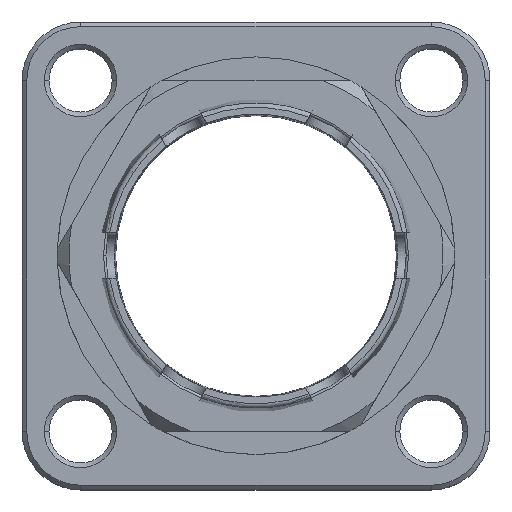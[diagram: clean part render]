
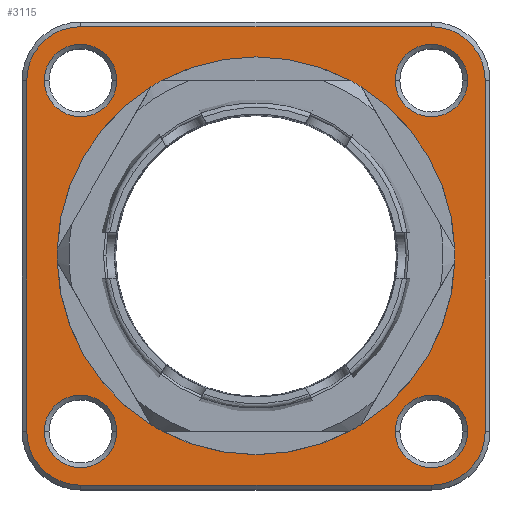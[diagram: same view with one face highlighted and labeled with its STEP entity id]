
A CAD part, top view. The second image highlights one B-rep face of the part: STEP entity #3115.
In plain terms, the highlighted planar face has unit normal (0, 0, 1).
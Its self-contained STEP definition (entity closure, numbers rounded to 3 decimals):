
#231=CARTESIAN_POINT('',(-7.5,7.5,2.));
#232=DIRECTION('',(0.,0.,-1.));
#233=DIRECTION('',(-1.,0.,0.));
#234=AXIS2_PLACEMENT_3D('',#231,#232,#233);
#239=CARTESIAN_POINT('',(-7.5,7.5,2.));
#240=DIRECTION('',(0.,0.,-1.));
#241=DIRECTION('',(1.,0.,0.));
#242=AXIS2_PLACEMENT_3D('',#239,#240,#241);
#247=CARTESIAN_POINT('',(7.5,7.5,2.));
#248=DIRECTION('',(0.,0.,-1.));
#249=DIRECTION('',(-1.,0.,0.));
#250=AXIS2_PLACEMENT_3D('',#247,#248,#249);
#255=CARTESIAN_POINT('',(7.5,7.5,2.));
#256=DIRECTION('',(0.,0.,-1.));
#257=DIRECTION('',(1.,0.,0.));
#258=AXIS2_PLACEMENT_3D('',#255,#256,#257);
#263=CARTESIAN_POINT('',(-7.5,-7.5,2.));
#264=DIRECTION('',(0.,0.,-1.));
#265=DIRECTION('',(1.,0.,0.));
#266=AXIS2_PLACEMENT_3D('',#263,#264,#265);
#271=CARTESIAN_POINT('',(-7.5,-7.5,2.));
#272=DIRECTION('',(0.,0.,-1.));
#273=DIRECTION('',(-1.,0.,0.));
#274=AXIS2_PLACEMENT_3D('',#271,#272,#273);
#279=CARTESIAN_POINT('',(7.5,-7.5,2.));
#280=DIRECTION('',(0.,0.,-1.));
#281=DIRECTION('',(1.,0.,0.));
#282=AXIS2_PLACEMENT_3D('',#279,#280,#281);
#287=CARTESIAN_POINT('',(7.5,-7.5,2.));
#288=DIRECTION('',(0.,0.,-1.));
#289=DIRECTION('',(-1.,0.,0.));
#290=AXIS2_PLACEMENT_3D('',#287,#288,#289);
#295=DIRECTION('',(0.,1.,0.));
#296=VECTOR('',#295,15.);
#297=CARTESIAN_POINT('',(9.8,-7.5,2.));
#298=LINE('',#297,#296);
#302=CARTESIAN_POINT('',(7.5,-7.5,2.));
#303=DIRECTION('',(0.,0.,1.));
#304=DIRECTION('',(0.,-1.,0.));
#305=AXIS2_PLACEMENT_3D('',#302,#303,#304);
#310=DIRECTION('',(1.,0.,0.));
#311=VECTOR('',#310,15.);
#312=CARTESIAN_POINT('',(-7.5,-9.8,2.));
#313=LINE('',#312,#311);
#317=CARTESIAN_POINT('',(-7.5,-7.5,2.));
#318=DIRECTION('',(0.,0.,1.));
#319=DIRECTION('',(-1.,0.,0.));
#320=AXIS2_PLACEMENT_3D('',#317,#318,#319);
#325=DIRECTION('',(0.,-1.,0.));
#326=VECTOR('',#325,15.);
#327=CARTESIAN_POINT('',(-9.8,7.5,2.));
#328=LINE('',#327,#326);
#332=CARTESIAN_POINT('',(-7.5,7.5,2.));
#333=DIRECTION('',(0.,0.,1.));
#334=DIRECTION('',(0.,1.,0.));
#335=AXIS2_PLACEMENT_3D('',#332,#333,#334);
#340=DIRECTION('',(-1.,0.,0.));
#341=VECTOR('',#340,15.);
#342=CARTESIAN_POINT('',(7.5,9.8,2.));
#343=LINE('',#342,#341);
#347=CARTESIAN_POINT('',(7.5,7.5,2.));
#348=DIRECTION('',(0.,0.,1.));
#349=DIRECTION('',(1.,0.,0.));
#350=AXIS2_PLACEMENT_3D('',#347,#348,#349);
#355=CARTESIAN_POINT('',(0.,0.,2.));
#356=DIRECTION('',(0.,0.,1.));
#357=DIRECTION('',(1.,0.,0.));
#358=AXIS2_PLACEMENT_3D('',#355,#356,#357);
#363=CARTESIAN_POINT('',(0.,0.,2.));
#364=DIRECTION('',(0.,0.,1.));
#365=DIRECTION('',(-1.,0.,0.));
#366=AXIS2_PLACEMENT_3D('',#363,#364,#365);
#2615=CARTESIAN_POINT('',(-9.05,7.5,2.));
#2616=CARTESIAN_POINT('',(-5.95,7.5,2.));
#2617=VERTEX_POINT('',#2615);
#2618=VERTEX_POINT('',#2616);
#2639=CARTESIAN_POINT('',(5.95,7.5,2.));
#2640=CARTESIAN_POINT('',(9.05,7.5,2.));
#2641=VERTEX_POINT('',#2639);
#2642=VERTEX_POINT('',#2640);
#2655=CARTESIAN_POINT('',(-5.95,-7.5,2.));
#2656=CARTESIAN_POINT('',(-9.05,-7.5,2.));
#2657=VERTEX_POINT('',#2655);
#2658=VERTEX_POINT('',#2656);
#2671=CARTESIAN_POINT('',(9.05,-7.5,2.));
#2672=CARTESIAN_POINT('',(5.95,-7.5,2.));
#2673=VERTEX_POINT('',#2671);
#2674=VERTEX_POINT('',#2672);
#2679=CARTESIAN_POINT('',(9.8,-7.5,2.));
#2680=CARTESIAN_POINT('',(9.8,7.5,2.));
#2681=VERTEX_POINT('',#2679);
#2682=VERTEX_POINT('',#2680);
#2687=CARTESIAN_POINT('',(7.5,9.8,2.));
#2688=VERTEX_POINT('',#2687);
#2691=CARTESIAN_POINT('',(-7.5,9.8,2.));
#2692=VERTEX_POINT('',#2691);
#2695=CARTESIAN_POINT('',(-9.8,7.5,2.));
#2696=VERTEX_POINT('',#2695);
#2699=CARTESIAN_POINT('',(-9.8,-7.5,
2.));
#2700=VERTEX_POINT('',#2699);
#2703=CARTESIAN_POINT('',(-7.5,-9.8,2.));
#2704=VERTEX_POINT('',#2703);
#2707=CARTESIAN_POINT('',(7.5,-9.8,2.));
#2708=VERTEX_POINT('',#2707);
#2943=CARTESIAN_POINT('',(7.671,0.,2.));
#2944=CARTESIAN_POINT('',(-7.671,0.,2.));
#2945=VERTEX_POINT('',#2943);
#2946=VERTEX_POINT('',#2944);
#3063=CARTESIAN_POINT('',(0.,0.,2.));
#3064=DIRECTION('',(0.,0.,1.));
#3065=DIRECTION('',(1.,0.,0.));
#3066=AXIS2_PLACEMENT_3D('',#3063,#3064,#3065);
#3067=PLANE('',#3066);
#3069=ORIENTED_EDGE('',*,*,#3068,.F.);
#3071=ORIENTED_EDGE('',*,*,#3070,.F.);
#3073=ORIENTED_EDGE('',*,*,#3072,.F.);
#3075=ORIENTED_EDGE('',*,*,#3074,.F.);
#3077=ORIENTED_EDGE('',*,*,#3076,.F.);
#3079=ORIENTED_EDGE('',*,*,#3078,.F.);
#3081=ORIENTED_EDGE('',*,*,#3080,.F.);
#3083=ORIENTED_EDGE('',*,*,#3082,.F.);
#3084=EDGE_LOOP('',(#3069,#3071,#3073,#3075,#3077,#3079,#3081,#3083));
#3085=FACE_OUTER_BOUND('',#3084,.F.);
#3087=ORIENTED_EDGE('',*,*,#3086,.F.);
#3089=ORIENTED_EDGE('',*,*,#3088,.F.);
#3090=EDGE_LOOP('',(#3087,#3089));
#3091=FACE_BOUND('',#3090,.F.);
#3093=ORIENTED_EDGE('',*,*,#3092,.F.);
#3095=ORIENTED_EDGE('',*,*,#3094,.F.);
#3096=EDGE_LOOP('',(#3093,#3095));
#3097=FACE_BOUND('',#3096,.F.);
#3099=ORIENTED_EDGE('',*,*,#3098,.F.);
#3101=ORIENTED_EDGE('',*,*,#3100,.F.);
#3102=EDGE_LOOP('',(#3099,#3101));
#3103=FACE_BOUND('',#3102,.F.);
#3105=ORIENTED_EDGE('',*,*,#3104,.F.);
#3106=ORIENTED_EDGE('',*,*,#3053,.F.);
#3107=EDGE_LOOP('',(#3105,#3106));
#3108=FACE_BOUND('',#3107,.F.);
#3110=ORIENTED_EDGE('',*,*,#3109,.T.);
#3112=ORIENTED_EDGE('',*,*,#3111,.T.);
#3113=EDGE_LOOP('',(#3110,#3112));
#3114=FACE_BOUND('',#3113,.F.);
#235=CIRCLE('',#234,1.55);
#243=CIRCLE('',#242,1.55);
#251=CIRCLE('',#250,1.55);
#259=CIRCLE('',#258,1.55);
#267=CIRCLE('',#266,1.55);
#275=CIRCLE('',#274,1.55);
#283=CIRCLE('',#282,1.55);
#291=CIRCLE('',#290,1.55);
#306=CIRCLE('',#305,2.3);
#321=CIRCLE('',#320,2.3);
#336=CIRCLE('',#335,2.3);
#351=CIRCLE('',#350,2.3);
#359=CIRCLE('',#358,7.671);
#367=CIRCLE('',#366,7.671);
#3053=EDGE_CURVE('',#2618,#2617,#243,.T.);
#3068=EDGE_CURVE('',#2681,#2682,#298,.T.);
#3070=EDGE_CURVE('',#2708,#2681,#306,.T.);
#3072=EDGE_CURVE('',#2704,#2708,#313,.T.);
#3074=EDGE_CURVE('',#2700,#2704,#321,.T.);
#3076=EDGE_CURVE('',#2696,#2700,#328,.T.);
#3078=EDGE_CURVE('',#2692,#2696,#336,.T.);
#3080=EDGE_CURVE('',#2688,#2692,#343,.T.);
#3082=EDGE_CURVE('',#2682,#2688,#351,.T.);
#3086=EDGE_CURVE('',#2641,#2642,#251,.T.);
#3088=EDGE_CURVE('',#2642,#2641,#259,.T.);
#3092=EDGE_CURVE('',#2657,#2658,#267,.T.);
#3094=EDGE_CURVE('',#2658,#2657,#275,.T.);
#3098=EDGE_CURVE('',#2673,#2674,#283,.T.);
#3100=EDGE_CURVE('',#2674,#2673,#291,.T.);
#3104=EDGE_CURVE('',#2617,#2618,#235,.T.);
#3109=EDGE_CURVE('',#2945,#2946,#359,.T.);
#3111=EDGE_CURVE('',#2946,#2945,#367,.T.);
#3115=ADVANCED_FACE('',(#3085,#3091,#3097,#3103,#3108,#3114),#3067,.T.);
